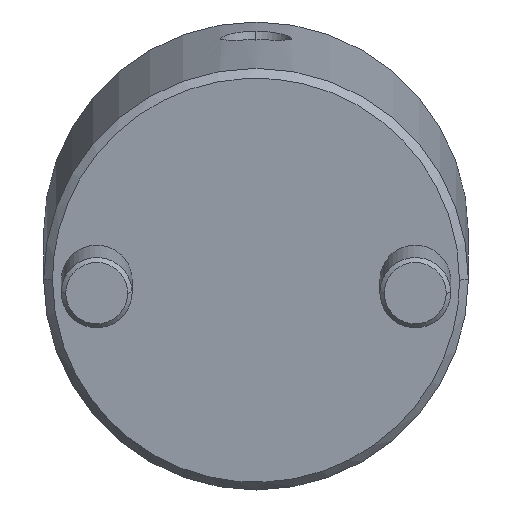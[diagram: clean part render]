
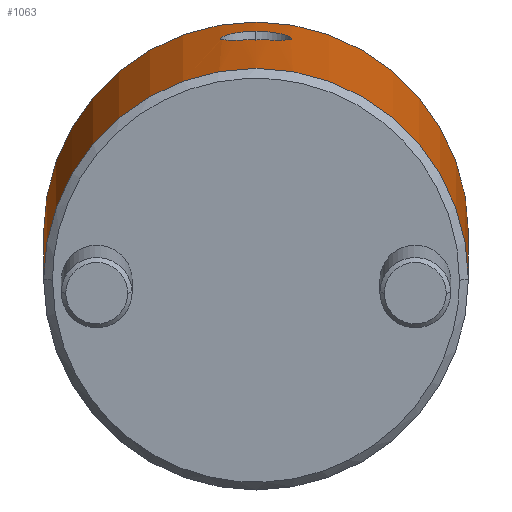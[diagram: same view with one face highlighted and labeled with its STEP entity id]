
A CAD part, front view. The second image highlights one B-rep face of the part: STEP entity #1063.
In plain terms, the highlighted cylindrical face has radius 24 mm (diameter 48 mm), a partial arc.
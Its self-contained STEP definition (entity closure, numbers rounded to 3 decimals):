
#808=CARTESIAN_POINT('Vertex',(0.,24.,1.)) ;
#811=CARTESIAN_POINT('Axis2P3D Location',(0.,0.,1.)) ;
#815=CARTESIAN_POINT('Vertex',(0.,-24.,1.)) ;
#967=CARTESIAN_POINT('Axis2P3D Location',(0.,0.,-2.25)) ;
#972=CARTESIAN_POINT('Line Origine',(0.,24.,-2.25)) ;
#976=CARTESIAN_POINT('Vertex',(0.,24.,44.)) ;
#979=CARTESIAN_POINT('Axis2P3D Location',(0.,0.,44.)) ;
#983=CARTESIAN_POINT('Vertex',(0.,-24.,44.)) ;
#986=CARTESIAN_POINT('Line Origine',(0.,-24.,-2.25)) ;
#998=CARTESIAN_POINT('Control Point',(24.,0.,35.463)) ;
#999=CARTESIAN_POINT('Control Point',(24.,0.584,35.463)) ;
#1000=CARTESIAN_POINT('Control Point',(23.982,1.157,35.355)) ;
#1001=CARTESIAN_POINT('Control Point',(23.947,1.713,35.137)) ;
#1002=CARTESIAN_POINT('Control Point',(23.887,2.381,34.725)) ;
#1003=CARTESIAN_POINT('Control Point',(23.821,2.93,34.165)) ;
#1004=CARTESIAN_POINT('Control Point',(23.804,3.062,34.013)) ;
#1005=CARTESIAN_POINT('Control Point',(23.756,3.424,33.542)) ;
#1006=CARTESIAN_POINT('Control Point',(23.714,3.697,33.01)) ;
#1007=CARTESIAN_POINT('Control Point',(23.692,3.834,32.642)) ;
#1008=CARTESIAN_POINT('Control Point',(23.669,3.973,32.066)) ;
#1009=CARTESIAN_POINT('Control Point',(23.663,4.006,31.473)) ;
#1010=CARTESIAN_POINT('Control Point',(23.663,4.005,31.28)) ;
#1011=CARTESIAN_POINT('Control Point',(23.668,3.98,30.889)) ;
#1012=CARTESIAN_POINT('Control Point',(23.68,3.909,30.506)) ;
#1013=CARTESIAN_POINT('Control Point',(23.687,3.862,30.318)) ;
#1014=CARTESIAN_POINT('Control Point',(23.716,3.686,29.76)) ;
#1015=CARTESIAN_POINT('Control Point',(23.758,3.411,29.243)) ;
#1016=CARTESIAN_POINT('Control Point',(23.79,3.185,28.922)) ;
#1017=CARTESIAN_POINT('Control Point',(23.848,2.725,28.413)) ;
#1018=CARTESIAN_POINT('Control Point',(23.904,2.168,28.015)) ;
#1019=CARTESIAN_POINT('Control Point',(23.926,1.913,27.866)) ;
#1020=CARTESIAN_POINT('Control Point',(23.963,1.393,27.623)) ;
#1021=CARTESIAN_POINT('Control Point',(23.988,0.837,27.476)) ;
#1022=CARTESIAN_POINT('Control Point',(23.996,0.559,27.427)) ;
#1023=CARTESIAN_POINT('Control Point',(24.,0.28,27.403)) ;
#1024=CARTESIAN_POINT('Control Point',(24.,0.,27.403)) ;
#1025=CARTESIAN_POINT('Vertex',(24.,0.,35.463)) ;
#1027=CARTESIAN_POINT('Vertex',(24.,0.,27.403)) ;
#1031=CARTESIAN_POINT('Control Point',(24.,0.,27.403)) ;
#1032=CARTESIAN_POINT('Control Point',(24.,-0.392,27.403)) ;
#1033=CARTESIAN_POINT('Control Point',(23.992,-0.781,27.45)) ;
#1034=CARTESIAN_POINT('Control Point',(23.976,-1.167,27.545)) ;
#1035=CARTESIAN_POINT('Control Point',(23.914,-2.177,27.93)) ;
#1036=CARTESIAN_POINT('Control Point',(23.818,-3.018,28.63)) ;
#1037=CARTESIAN_POINT('Control Point',(23.755,-3.444,29.186)) ;
#1038=CARTESIAN_POINT('Control Point',(23.68,-3.909,30.167)) ;
#1039=CARTESIAN_POINT('Control Point',(23.66,-4.026,31.251)) ;
#1040=CARTESIAN_POINT('Control Point',(23.661,-4.02,31.646)) ;
#1041=CARTESIAN_POINT('Control Point',(23.675,-3.941,32.234)) ;
#1042=CARTESIAN_POINT('Control Point',(23.704,-3.76,32.792)) ;
#1043=CARTESIAN_POINT('Control Point',(23.715,-3.688,32.977)) ;
#1044=CARTESIAN_POINT('Control Point',(23.741,-3.522,33.336)) ;
#1045=CARTESIAN_POINT('Control Point',(23.77,-3.314,33.674)) ;
#1046=CARTESIAN_POINT('Control Point',(23.786,-3.201,33.835)) ;
#1047=CARTESIAN_POINT('Control Point',(23.818,-2.954,34.146)) ;
#1048=CARTESIAN_POINT('Control Point',(23.851,-2.673,34.423)) ;
#1049=CARTESIAN_POINT('Control Point',(23.868,-2.525,34.552)) ;
#1050=CARTESIAN_POINT('Control Point',(23.907,-2.138,34.85)) ;
#1051=CARTESIAN_POINT('Control Point',(23.941,-1.711,35.086)) ;
#1052=CARTESIAN_POINT('Control Point',(23.959,-1.444,35.203)) ;
#1053=CARTESIAN_POINT('Control Point',(23.982,-0.997,35.352)) ;
#1054=CARTESIAN_POINT('Control Point',(23.995,-0.535,35.432)) ;
#1055=CARTESIAN_POINT('Control Point',(23.998,-0.357,35.453)) ;
#1056=CARTESIAN_POINT('Control Point',(24.,-0.179,35.463)) ;
#1057=CARTESIAN_POINT('Control Point',(24.,0.,35.463)) ;
#812=DIRECTION('Axis2P3D Direction',(0.,0.,1.)) ;
#968=DIRECTION('Axis2P3D Direction',(0.,-0.,1.)) ;
#969=DIRECTION('Axis2P3D XDirection',(0.,-1.,0.)) ;
#973=DIRECTION('Vector Direction',(0.,0.,1.)) ;
#980=DIRECTION('Axis2P3D Direction',(0.,-0.,1.)) ;
#987=DIRECTION('Vector Direction',(0.,0.,1.)) ;
#813=AXIS2_PLACEMENT_3D('Circle Axis2P3D',#811,#812,$) ;
#970=AXIS2_PLACEMENT_3D('Cylinder Axis2P3D',#967,#968,#969) ;
#981=AXIS2_PLACEMENT_3D('Circle Axis2P3D',#979,#980,$) ;
#992=ORIENTED_EDGE('',*,*,#978,.F.) ;
#993=ORIENTED_EDGE('',*,*,#985,.T.) ;
#994=ORIENTED_EDGE('',*,*,#990,.T.) ;
#995=ORIENTED_EDGE('',*,*,#817,.F.) ;
#1060=ORIENTED_EDGE('',*,*,#1029,.T.) ;
#1061=ORIENTED_EDGE('',*,*,#1058,.T.) ;
#1062=FACE_BOUND('',#1059,.T.) ;
#974=VECTOR('Line Direction',#973,1.) ;
#988=VECTOR('Line Direction',#987,1.) ;
#1063=ADVANCED_FACE('MANIFOLD_SOLID_BREP #1138',(#996,#1062),#971,.T.) ;
#997=B_SPLINE_CURVE_WITH_KNOTS('',5,(#998,#999,#1000,#1001,#1002,#1003,#1004,#1005,#1006,#1007,#1008,#1009,#1010,#1011,#1012,#1013,#1014,#1015,#1016,#1017,#1018,#1019,#1020,#1021,#1022,#1023,#1024),.UNSPECIFIED.,.F.,.U.,(6,3,3,3,3,3,3,3,6),(0.,4.14,5.526,8.298,9.663,11.034,13.808,15.892,17.878),.UNSPECIFIED.) ;
#1030=B_SPLINE_CURVE_WITH_KNOTS('',5,(#1031,#1032,#1033,#1034,#1035,#1036,#1037,#1038,#1039,#1040,#1041,#1042,#1043,#1044,#1045,#1046,#1047,#1048,#1049,#1050,#1051,#1052,#1053,#1054,#1055,#1056,#1057),.UNSPECIFIED.,.F.,.U.,(6,3,3,3,3,3,3,3,6),(0.,2.779,7.629,10.375,11.764,13.152,14.543,16.62,17.888),.UNSPECIFIED.) ;
#814=CIRCLE('generated circle',#813,24.) ;
#982=CIRCLE('generated circle',#981,24.) ;
#971=CYLINDRICAL_SURFACE('generated cylinder',#970,24.) ;
#817=EDGE_CURVE('',#809,#816,#814,.F.) ;
#978=EDGE_CURVE('',#977,#809,#975,.F.) ;
#985=EDGE_CURVE('',#977,#984,#982,.F.) ;
#990=EDGE_CURVE('',#984,#816,#989,.F.) ;
#1029=EDGE_CURVE('',#1026,#1028,#997,.T.) ;
#1058=EDGE_CURVE('',#1028,#1026,#1030,.T.) ;
#991=EDGE_LOOP('',(#992,#993,#994,#995)) ;
#1059=EDGE_LOOP('',(#1060,#1061)) ;
#996=FACE_OUTER_BOUND('',#991,.T.) ;
#975=LINE('Line',#972,#974) ;
#989=LINE('Line',#986,#988) ;
#809=VERTEX_POINT('',#808) ;
#816=VERTEX_POINT('',#815) ;
#977=VERTEX_POINT('',#976) ;
#984=VERTEX_POINT('',#983) ;
#1026=VERTEX_POINT('',#1025) ;
#1028=VERTEX_POINT('',#1027) ;
